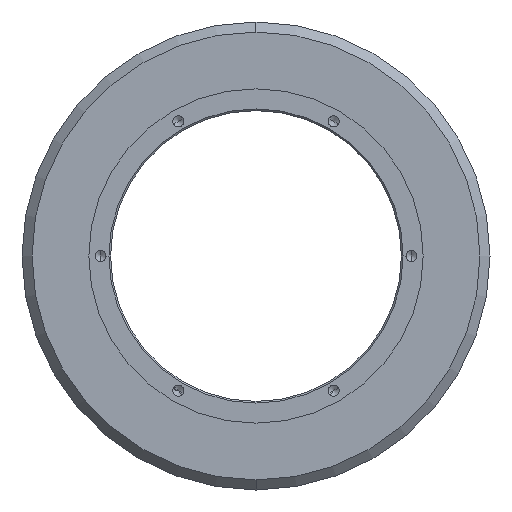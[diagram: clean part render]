
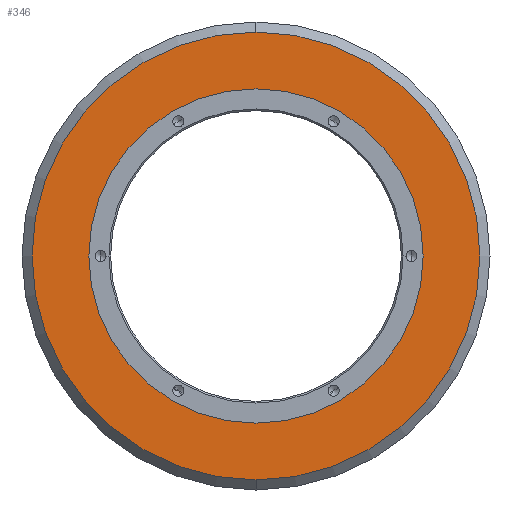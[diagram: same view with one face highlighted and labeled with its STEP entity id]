
A CAD part, left-side view. The second image highlights one B-rep face of the part: STEP entity #346.
In plain terms, the highlighted planar face has unit normal (-1, 0, 0).
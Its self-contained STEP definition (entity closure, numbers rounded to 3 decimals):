
#25 = CIRCLE ( 'NONE', #1243, 50. ) ;
#127 = CARTESIAN_POINT ( 'NONE',  ( -24.5, 0., 0. ) ) ;
#146 = VERTEX_POINT ( 'NONE', #516 ) ;
#197 = ORIENTED_EDGE ( 'NONE', *, *, #278, .T. ) ;
#278 = EDGE_CURVE ( 'NONE', #396, #370, #25, .T. ) ;
#346 = ADVANCED_FACE ( 'NONE', ( #1260, #1669 ), #1555, .T. ) ;
#370 = VERTEX_POINT ( 'NONE', #1532 ) ;
#396 = VERTEX_POINT ( 'NONE', #897 ) ;
#409 = DIRECTION ( 'NONE',  ( 1., 0., 0. ) ) ;
#415 = DIRECTION ( 'NONE',  ( 0., 0., 1. ) ) ;
#429 = AXIS2_PLACEMENT_3D ( 'NONE', #626, #1697, #1560 ) ;
#471 = ORIENTED_EDGE ( 'NONE', *, *, #488, .T. ) ;
#488 = EDGE_CURVE ( 'NONE', #1675, #146, #1313, .T. ) ;
#497 = AXIS2_PLACEMENT_3D ( 'NONE', #715, #1250, #577 ) ;
#516 = CARTESIAN_POINT ( 'NONE',  ( -24.5, 0., 67. ) ) ;
#548 = DIRECTION ( 'NONE',  ( 0., 0., 1. ) ) ;
#577 = DIRECTION ( 'NONE',  ( 0., 0., 1. ) ) ;
#626 = CARTESIAN_POINT ( 'NONE',  ( -24.5, 50., 0. ) ) ;
#640 = AXIS2_PLACEMENT_3D ( 'NONE', #127, #1470, #1052 ) ;
#715 = CARTESIAN_POINT ( 'NONE',  ( -24.5, 0., 0. ) ) ;
#801 = EDGE_LOOP ( 'NONE', ( #197, #1281 ) ) ;
#816 = ORIENTED_EDGE ( 'NONE', *, *, #1169, .T. ) ;
#897 = CARTESIAN_POINT ( 'NONE',  ( -24.5, 0., 50. ) ) ;
#990 = CIRCLE ( 'NONE', #1211, 50. ) ;
#1000 = CARTESIAN_POINT ( 'NONE',  ( -24.5, 0., -67. ) ) ;
#1052 = DIRECTION ( 'NONE',  ( 0., 0., 1. ) ) ;
#1090 = CARTESIAN_POINT ( 'NONE',  ( -24.5, 0., 0. ) ) ;
#1169 = EDGE_CURVE ( 'NONE', #146, #1675, #1544, .T. ) ;
#1211 = AXIS2_PLACEMENT_3D ( 'NONE', #1733, #409, #548 ) ;
#1223 = DIRECTION ( 'NONE',  ( 1., 0., 0. ) ) ;
#1243 = AXIS2_PLACEMENT_3D ( 'NONE', #1090, #1223, #415 ) ;
#1250 = DIRECTION ( 'NONE',  ( -1., 0., 0. ) ) ;
#1260 = FACE_OUTER_BOUND ( 'NONE', #1643, .T. ) ;
#1281 = ORIENTED_EDGE ( 'NONE', *, *, #1328, .T. ) ;
#1313 = CIRCLE ( 'NONE', #640, 67. ) ;
#1328 = EDGE_CURVE ( 'NONE', #370, #396, #990, .T. ) ;
#1470 = DIRECTION ( 'NONE',  ( -1., 0., 0. ) ) ;
#1532 = CARTESIAN_POINT ( 'NONE',  ( -24.5, 0., -50. ) ) ;
#1544 = CIRCLE ( 'NONE', #497, 67. ) ;
#1555 = PLANE ( 'NONE',  #429 ) ;
#1560 = DIRECTION ( 'NONE',  ( 0., 0., 1. ) ) ;
#1643 = EDGE_LOOP ( 'NONE', ( #471, #816 ) ) ;
#1669 = FACE_BOUND ( 'NONE', #801, .T. ) ;
#1675 = VERTEX_POINT ( 'NONE', #1000 ) ;
#1697 = DIRECTION ( 'NONE',  ( -1., 0., 0. ) ) ;
#1733 = CARTESIAN_POINT ( 'NONE',  ( -24.5, 0., 0. ) ) ;
